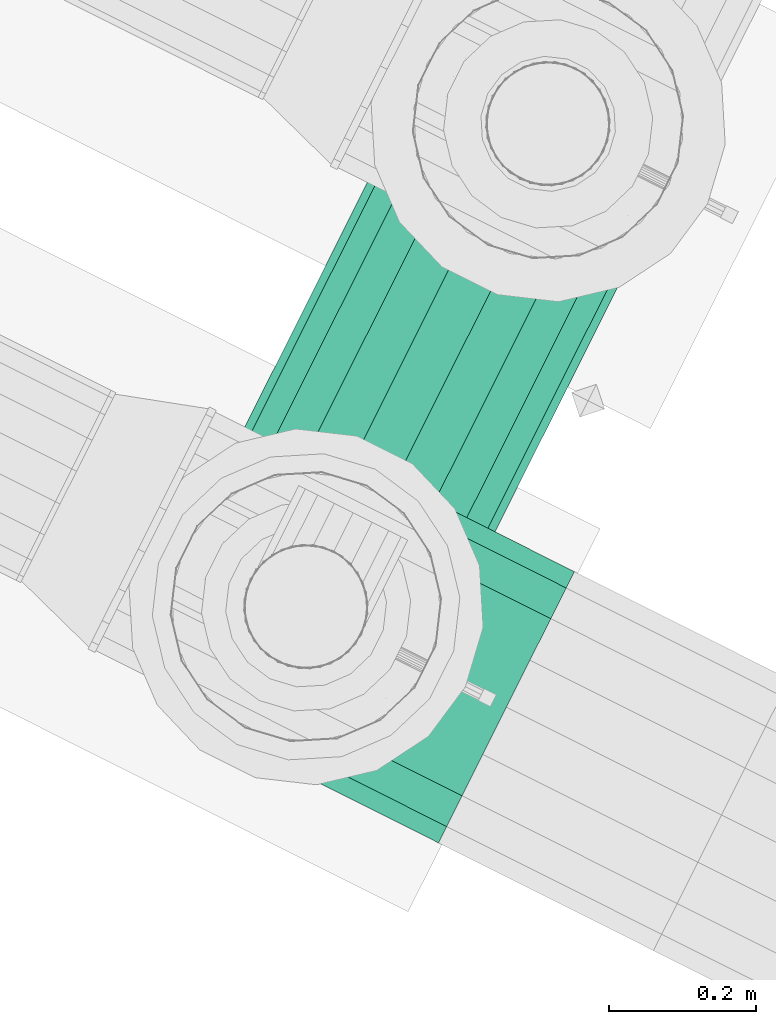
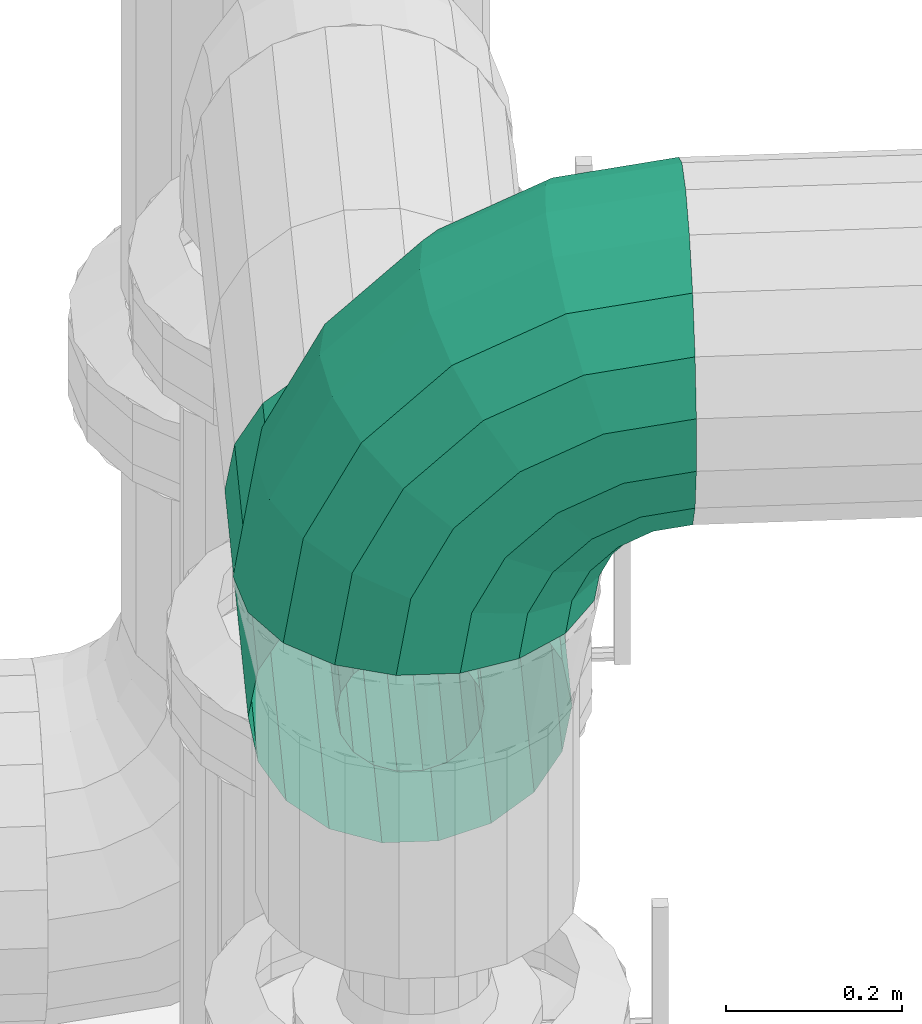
# One storey, part 21 of 152: 2 flow segments.
"""IFC2X3 building model written with IfcOpenShell, lengths in metres."""

from ifc_helpers import new_model, si_unit, derived_unit, direction, frame, origin, place, context, subcontext, project, spatial, face_set, surface_model, source, transform, mapped, material, type_object, type_shapes, element, save


model = new_model("IFC2X3")

# Units and contexts
model_context = context("Model", 3, precision=5.2338327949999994e-05, world=origin(), true_north=direction((0.0, 1.0)))
body_context = subcontext(model_context, "Body", "Model", "MODEL_VIEW")
ifc_project = project(units=[si_unit("LENGTHUNIT", "METRE"), si_unit("AREAUNIT", "SQUARE_METRE"), si_unit("VOLUMEUNIT", "CUBIC_METRE"), si_unit("MASSUNIT", "GRAM", prefix="KILO"), si_unit("PLANEANGLEUNIT", "RADIAN"), derived_unit("THERMALTRANSMITTANCEUNIT", [(si_unit("MASSUNIT", "GRAM", prefix="KILO"), 1), (si_unit("THERMODYNAMICTEMPERATUREUNIT", "KELVIN"), -1), (si_unit("TIMEUNIT", "SECOND"), -3)])], contexts=[model_context])

# Site, building, storey
site_placement = place(None, frame((0.0, 0.0, 0.0), z_axis=(0.0, 0.0, 1.0), x_axis=(0.8939966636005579, -0.4480736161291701, 0.0)))
site = spatial("IfcSite", under=ifc_project, at=site_placement, Name="Default", CompositionType="ELEMENT")
building_placement = place(site_placement, origin())
building = spatial("IfcBuilding", under=site, at=building_placement, CompositionType="ELEMENT")
storey_placement = place(building_placement, frame((0.0, 0.0, 2.7499999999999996)))
storey = spatial("IfcBuildingStorey", under=building, at=storey_placement, Name="1. Obergeschoss", CompositionType="ELEMENT", Elevation=2.7499999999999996)

# Flow segments
ifc_material = material(Name="IfcSurfaceStyle #9317")
distribution_element_type_1 = type_object("IfcDistributionElementType", Name="Rohrbogen 220556:Rohrbogen 220556", material=ifc_material)
shared_shape_1 = source(origin(), body_context, "Body", "SurfaceModel", [
    surface_model("IfcFaceBasedSurfaceModel", [(12.030668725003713, 5.856787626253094, 5.745190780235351), (12.030668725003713, 5.8942559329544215, 5.738584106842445), (11.904607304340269, 5.8942559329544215, 5.718617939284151), (11.902565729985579, 5.856787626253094, 5.724901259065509), (11.79088565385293, 5.8942559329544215, 5.66067386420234), (11.78700234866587, 5.8567876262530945, 5.666018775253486), (11.700635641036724, 5.8942559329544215, 5.570423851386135), (11.695290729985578, 5.856787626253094, 5.5743071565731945), (11.642691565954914, 5.894255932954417, 5.456702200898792), (11.63640824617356, 5.856787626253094, 5.458743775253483), (11.622725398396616, 5.894255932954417, 5.330640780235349), (11.61611872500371, 5.85678762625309, 5.33064078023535), (12.030668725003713, 5.927205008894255, 5.7195609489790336), (11.91048578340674, 5.927205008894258, 5.700525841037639), (11.802067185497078, 5.927205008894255, 5.645283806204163), (11.716025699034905, 5.927205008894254, 5.559242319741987), (11.660783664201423, 5.927205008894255, 5.450823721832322), (11.641748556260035, 5.927205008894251, 5.330640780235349), (12.030668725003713, 5.95166070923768, 5.690415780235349), (11.919492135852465, 5.9516607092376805, 5.672807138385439), (11.819198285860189, 5.95166070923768, 5.621704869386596), (11.739604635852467, 5.951660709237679, 5.5421112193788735), (11.688502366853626, 5.951660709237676, 5.441817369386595), (11.670893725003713, 5.951660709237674, 5.330640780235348), (12.030668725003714, 5.96467331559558, 5.6546639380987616), (11.930540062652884, 5.964673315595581, 5.6388051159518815), (11.840212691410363, 5.96467331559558, 5.5927810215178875), (11.768528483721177, 5.964673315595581, 5.521096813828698), (11.722504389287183, 5.9646733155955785, 5.430769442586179), (11.706645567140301, 5.9646733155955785, 5.330640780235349), (12.030668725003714, 5.964673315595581, 5.616617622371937), (11.942297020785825, 5.964673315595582, 5.602620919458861), (11.862575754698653, 5.964673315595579, 5.562000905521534), (11.79930859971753, 5.964673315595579, 5.49873375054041), (11.758688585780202, 5.9646733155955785, 5.419012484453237), (11.744691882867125, 5.964673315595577, 5.330640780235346), (12.030668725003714, 5.951660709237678, 5.580865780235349), (11.953344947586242, 5.951660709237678, 5.568618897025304), (11.883590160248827, 5.951660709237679, 5.533077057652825), (11.828232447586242, 5.95166070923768, 5.4777193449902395), (11.792690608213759, 5.951660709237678, 5.4079645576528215), (11.78044372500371, 5.951660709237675, 5.33064078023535), (12.030668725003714, 5.927205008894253, 5.551720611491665), (11.962351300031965, 5.927205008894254, 5.540900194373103), (11.90072126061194, 5.927205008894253, 5.509498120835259), (11.851811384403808, 5.927205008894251, 5.460588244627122), (11.820409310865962, 5.927205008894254, 5.398958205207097), (11.809588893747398, 5.927205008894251, 5.33064078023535), (12.030668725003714, 5.894255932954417, 5.532697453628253), (11.968229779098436, 5.89425593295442, 5.522808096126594), (11.911902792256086, 5.894255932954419, 5.494108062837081), (11.867201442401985, 5.89425593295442, 5.449406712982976), (11.838501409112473, 5.894255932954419, 5.393079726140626), (11.828612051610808, 5.894255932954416, 5.330640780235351), (12.030668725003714, 5.856787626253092, 5.526090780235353), (11.97027135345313, 5.856787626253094, 5.516524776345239), (11.915786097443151, 5.856787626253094, 5.488763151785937), (11.872546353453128, 5.856787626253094, 5.445523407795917), (11.844784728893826, 5.85678762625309, 5.391038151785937), (11.835218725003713, 5.856787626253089, 5.330640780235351), (12.030668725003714, 5.819319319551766, 5.532697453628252), (11.968229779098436, 5.819319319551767, 5.522808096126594), (11.91190279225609, 5.8193193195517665, 5.494108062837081), (11.867201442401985, 5.8193193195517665, 5.44940671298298), (11.838501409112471, 5.819319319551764, 5.393079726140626), (11.828612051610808, 5.819319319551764, 5.330640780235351), (12.030668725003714, 5.786370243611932, 5.5517206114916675), (11.962351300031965, 5.786370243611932, 5.540900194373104), (11.90072126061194, 5.786370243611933, 5.509498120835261), (11.851811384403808, 5.786370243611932, 5.460588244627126), (11.820409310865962, 5.786370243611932, 5.3989582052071), (11.809588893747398, 5.7863702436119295, 5.330640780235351), (12.030668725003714, 5.761914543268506, 5.58086578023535), (11.953344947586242, 5.761914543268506, 5.568618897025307), (11.883590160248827, 5.7619145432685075, 5.533077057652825), (11.828232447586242, 5.761914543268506, 5.47771934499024), (11.792690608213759, 5.7619145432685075, 5.407964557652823), (11.78044372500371, 5.761914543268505, 5.330640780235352), (12.030668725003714, 5.748901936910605, 5.616617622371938), (11.942297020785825, 5.748901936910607, 5.602620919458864), (11.862575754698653, 5.748901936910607, 5.562000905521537), (11.79930859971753, 5.748901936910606, 5.4987337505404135), (11.7586885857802, 5.748901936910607, 5.419012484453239), (11.744691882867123, 5.748901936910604, 5.33064078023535), (12.030668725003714, 5.748901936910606, 5.654663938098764), (11.930540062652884, 5.748901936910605, 5.638805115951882), (11.840212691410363, 5.748901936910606, 5.592781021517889), (11.768528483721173, 5.748901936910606, 5.521096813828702), (11.722504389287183, 5.748901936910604, 5.430769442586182), (11.706645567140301, 5.748901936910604, 5.330640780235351), (12.030668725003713, 5.761914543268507, 5.690415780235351), (11.919492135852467, 5.761914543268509, 5.672807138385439), (11.81919828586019, 5.761914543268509, 5.621704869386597), (11.739604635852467, 5.761914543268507, 5.542111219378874), (11.688502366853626, 5.761914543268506, 5.441817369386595), (11.670893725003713, 5.761914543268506, 5.330640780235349), (12.030668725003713, 5.786370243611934, 5.719560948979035), (11.91048578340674, 5.786370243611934, 5.70052584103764), (11.802067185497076, 5.786370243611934, 5.645283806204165), (11.716025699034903, 5.786370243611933, 5.5592423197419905), (11.660783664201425, 5.786370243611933, 5.450823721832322), (11.64174855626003, 5.7863702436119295, 5.330640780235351), (12.030668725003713, 5.819319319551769, 5.738584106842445), (11.904607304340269, 5.81931931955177, 5.718617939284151), (11.79088565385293, 5.81931931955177, 5.660673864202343), (11.700635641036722, 5.819319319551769, 5.570423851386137), (11.642691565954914, 5.819319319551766, 5.456702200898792), (11.622725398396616, 5.819319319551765, 5.330640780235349), (12.030668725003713, 5.856787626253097, 5.84519078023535), (12.030668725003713, 5.92845794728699, 5.832553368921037), (11.875569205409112, 5.92845794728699, 5.807988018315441), (11.871664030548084, 5.856787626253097, 5.820006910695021), (11.735651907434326, 5.92845794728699, 5.736696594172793), (11.72822382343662, 5.8567876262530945, 5.746920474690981), (11.624612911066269, 5.928457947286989, 5.625657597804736), (11.614389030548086, 5.856787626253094, 5.633085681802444), (11.55332148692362, 5.9284579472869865, 5.485740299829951), (11.541302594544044, 5.856787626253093, 5.489645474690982), (11.528756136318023, 5.928457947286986, 5.33064078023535), (11.516118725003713, 5.856787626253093, 5.33064078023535), (12.030668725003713, 5.991483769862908, 5.796165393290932), (11.886813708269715, 5.991483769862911, 5.7733809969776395), (11.757040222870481, 5.991483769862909, 5.707258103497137), (11.654051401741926, 5.991483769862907, 5.60426928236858), (11.587928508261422, 5.991483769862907, 5.474495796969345), (11.565144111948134, 5.991483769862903, 5.330640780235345), (12.030668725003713, 6.038263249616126, 5.740415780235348), (11.904041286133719, 6.038263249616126, 5.720359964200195), (11.789809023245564, 6.0382632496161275, 5.662155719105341), (11.699153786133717, 6.038263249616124, 5.571500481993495), (11.640949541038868, 6.038263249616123, 5.457268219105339), (11.620893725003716, 6.03826324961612, 5.330640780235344), (12.030668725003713, 6.063154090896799, 5.672028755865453), (11.92517403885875, 6.063154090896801, 5.655320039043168), (11.830005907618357, 6.063154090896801, 5.606829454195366), (11.754480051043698, 6.063154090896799, 5.531303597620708), (11.705989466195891, 6.0631540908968, 5.4361354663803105), (11.68928074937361, 6.063154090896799, 5.330640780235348), (12.030668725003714, 6.0631540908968, 5.599252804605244), (11.94766304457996, 6.0631540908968, 5.586105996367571), (11.872782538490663, 6.0631540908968, 5.5479524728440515), (11.813357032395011, 6.0631540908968, 5.4885269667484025), (11.775203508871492, 6.063154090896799, 5.413646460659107), (11.762056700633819, 6.0631540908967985, 5.330640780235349), (12.030668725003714, 6.038263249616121, 5.53086578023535), (11.96879579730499, 6.038263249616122, 5.521066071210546), (11.912979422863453, 6.038263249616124, 5.492626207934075), (11.868683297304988, 6.038263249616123, 5.448330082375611), (11.840243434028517, 6.038263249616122, 5.392513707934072), (11.830443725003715, 6.038263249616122, 5.330640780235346), (12.030668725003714, 5.9914837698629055, 5.475116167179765), (11.98602337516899, 5.9914837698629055, 5.4680450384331), (11.945748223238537, 5.991483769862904, 5.447523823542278), (11.913785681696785, 5.9914837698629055, 5.415561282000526), (11.893264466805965, 5.991483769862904, 5.375286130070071), (11.886193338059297, 5.9914837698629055, 5.330640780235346), (12.030668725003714, 5.928457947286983, 5.438728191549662), (11.997267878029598, 5.9284579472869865, 5.433438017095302), (11.96713653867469, 5.9284579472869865, 5.418085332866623), (11.94322417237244, 5.928457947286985, 5.3941729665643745), (11.927871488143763, 5.928457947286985, 5.3640416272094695), (11.922581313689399, 5.928457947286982, 5.330640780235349), (12.030668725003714, 5.856787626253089, 5.426090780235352), (12.001173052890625, 5.856787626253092, 5.421419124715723), (11.974564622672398, 5.856787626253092, 5.407861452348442), (11.953448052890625, 5.85678762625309, 5.386744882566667), (11.939890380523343, 5.856787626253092, 5.36013645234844), (11.935218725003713, 5.856787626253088, 5.330640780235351), (12.030668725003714, 5.785117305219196, 5.438728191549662), (11.997267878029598, 5.785117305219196, 5.433438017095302), (11.96713653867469, 5.785117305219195, 5.4180853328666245), (11.94322417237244, 5.785117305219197, 5.3941729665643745), (11.927871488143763, 5.785117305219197, 5.3640416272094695), (11.922581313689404, 5.785117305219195, 5.330640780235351), (12.030668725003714, 5.722091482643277, 5.47511616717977), (11.98602337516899, 5.722091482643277, 5.468045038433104), (11.945748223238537, 5.722091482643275, 5.447523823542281), (11.913785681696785, 5.722091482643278, 5.415561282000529), (11.893264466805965, 5.722091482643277, 5.375286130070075), (11.886193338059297, 5.722091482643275, 5.330640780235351), (12.030668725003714, 5.675312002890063, 5.530865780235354), (11.968795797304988, 5.675312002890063, 5.5210660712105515), (11.912979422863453, 5.675312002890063, 5.49262620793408), (11.868683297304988, 5.675312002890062, 5.448330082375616), (11.840243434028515, 5.675312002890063, 5.392513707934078), (11.830443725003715, 5.6753120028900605, 5.330640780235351), (12.030668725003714, 5.650421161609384, 5.599252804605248), (11.94766304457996, 5.650421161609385, 5.586105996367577), (11.872782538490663, 5.650421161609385, 5.547952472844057), (11.813357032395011, 5.650421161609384, 5.488526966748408), (11.775203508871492, 5.6504211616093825, 5.413646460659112), (11.762056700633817, 5.650421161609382, 5.330640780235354), (12.030668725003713, 5.650421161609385, 5.672028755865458), (11.92517403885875, 5.650421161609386, 5.655320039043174), (11.830005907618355, 5.650421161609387, 5.6068294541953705), (11.754480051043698, 5.650421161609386, 5.531303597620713), (11.705989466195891, 5.650421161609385, 5.436135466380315), (11.689280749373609, 5.650421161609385, 5.330640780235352), (12.030668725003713, 5.675312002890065, 5.740415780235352), (11.904041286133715, 5.675312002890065, 5.7203599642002), (11.789809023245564, 5.675312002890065, 5.662155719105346), (11.699153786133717, 5.675312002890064, 5.571500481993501), (11.640949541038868, 5.675312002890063, 5.457268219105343), (11.620893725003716, 5.6753120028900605, 5.330640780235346), (12.030668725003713, 5.72209148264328, 5.796165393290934), (11.886813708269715, 5.722091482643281, 5.773380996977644), (11.757040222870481, 5.722091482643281, 5.707258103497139), (11.654051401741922, 5.722091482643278, 5.604269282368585), (11.587928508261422, 5.722091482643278, 5.474495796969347), (11.565144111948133, 5.722091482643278, 5.330640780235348), (12.030668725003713, 5.785117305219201, 5.832553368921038), (11.875569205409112, 5.7851173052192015, 5.807988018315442), (11.735651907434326, 5.785117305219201, 5.736696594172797), (11.624612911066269, 5.785117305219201, 5.625657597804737), (11.553321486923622, 5.785117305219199, 5.485740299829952), (11.528756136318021, 5.785117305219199, 5.330640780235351)], [face_set([[[0, 1, 2, 3]], [[3, 2, 4, 5]], [[5, 4, 6, 7]], [[7, 6, 8, 9]], [[9, 8, 10, 11]], [[1, 12, 13, 2]], [[2, 13, 14, 4]], [[4, 14, 15, 6]], [[6, 15, 16, 8]], [[8, 16, 17, 10]], [[12, 18, 19, 13]], [[13, 19, 20, 14]], [[14, 20, 21, 15]], [[15, 21, 22, 16]], [[16, 22, 23, 17]], [[18, 24, 25, 19]], [[19, 25, 26, 20]], [[20, 26, 27, 21]], [[21, 27, 28, 22]], [[22, 28, 29, 23]], [[24, 30, 31, 25]], [[25, 31, 32, 26]], [[26, 32, 33, 27]], [[27, 33, 34, 28]], [[28, 34, 35, 29]], [[30, 36, 37, 31]], [[31, 37, 38, 32]], [[32, 38, 39, 33]], [[33, 39, 40, 34]], [[34, 40, 41, 35]], [[36, 42, 43, 37]], [[37, 43, 44, 38]], [[38, 44, 45, 39]], [[39, 45, 46, 40]], [[40, 46, 47, 41]], [[42, 48, 49, 43]], [[43, 49, 50, 44]], [[44, 50, 51, 45]], [[45, 51, 52, 46]], [[46, 52, 53, 47]], [[48, 54, 55, 49]], [[49, 55, 56, 50]], [[50, 56, 57, 51]], [[51, 57, 58, 52]], [[52, 58, 59, 53]], [[54, 60, 61, 55]], [[55, 61, 62, 56]], [[56, 62, 63, 57]], [[57, 63, 64, 58]], [[58, 64, 65, 59]], [[60, 66, 67, 61]], [[61, 67, 68, 62]], [[62, 68, 69, 63]], [[63, 69, 70, 64]], [[64, 70, 71, 65]], [[66, 72, 73, 67]], [[67, 73, 74, 68]], [[68, 74, 75, 69]], [[69, 75, 76, 70]], [[70, 76, 77, 71]], [[72, 78, 79, 73]], [[73, 79, 80, 74]], [[74, 80, 81, 75]], [[75, 81, 82, 76]], [[76, 82, 83, 77]], [[78, 84, 85, 79]], [[79, 85, 86, 80]], [[80, 86, 87, 81]], [[81, 87, 88, 82]], [[82, 88, 89, 83]], [[84, 90, 91, 85]], [[85, 91, 92, 86]], [[86, 92, 93, 87]], [[87, 93, 94, 88]], [[88, 94, 95, 89]], [[90, 96, 97, 91]], [[91, 97, 98, 92]], [[92, 98, 99, 93]], [[93, 99, 100, 94]], [[94, 100, 101, 95]], [[96, 102, 103, 97]], [[97, 103, 104, 98]], [[98, 104, 105, 99]], [[99, 105, 106, 100]], [[100, 106, 107, 101]], [[102, 0, 3, 103]], [[103, 3, 5, 104]], [[104, 5, 7, 105]], [[105, 7, 9, 106]], [[106, 9, 11, 107]], [[108, 109, 110, 111]], [[111, 110, 112, 113]], [[113, 112, 114, 115]], [[115, 114, 116, 117]], [[117, 116, 118, 119]], [[109, 120, 121, 110]], [[110, 121, 122, 112]], [[112, 122, 123, 114]], [[114, 123, 124, 116]], [[116, 124, 125, 118]], [[120, 126, 127, 121]], [[121, 127, 128, 122]], [[122, 128, 129, 123]], [[123, 129, 130, 124]], [[124, 130, 131, 125]], [[126, 132, 133, 127]], [[127, 133, 134, 128]], [[128, 134, 135, 129]], [[129, 135, 136, 130]], [[130, 136, 137, 131]], [[132, 138, 139, 133]], [[133, 139, 140, 134]], [[134, 140, 141, 135]], [[135, 141, 142, 136]], [[136, 142, 143, 137]], [[138, 144, 145, 139]], [[139, 145, 146, 140]], [[140, 146, 147, 141]], [[141, 147, 148, 142]], [[142, 148, 149, 143]], [[144, 150, 151, 145]], [[145, 151, 152, 146]], [[146, 152, 153, 147]], [[147, 153, 154, 148]], [[148, 154, 155, 149]], [[150, 156, 157, 151]], [[151, 157, 158, 152]], [[152, 158, 159, 153]], [[153, 159, 160, 154]], [[154, 160, 161, 155]], [[156, 162, 163, 157]], [[157, 163, 164, 158]], [[158, 164, 165, 159]], [[159, 165, 166, 160]], [[160, 166, 167, 161]], [[162, 168, 169, 163]], [[163, 169, 170, 164]], [[164, 170, 171, 165]], [[165, 171, 172, 166]], [[166, 172, 173, 167]], [[168, 174, 175, 169]], [[169, 175, 176, 170]], [[170, 176, 177, 171]], [[171, 177, 178, 172]], [[172, 178, 179, 173]], [[174, 180, 181, 175]], [[175, 181, 182, 176]], [[176, 182, 183, 177]], [[177, 183, 184, 178]], [[178, 184, 185, 179]], [[180, 186, 187, 181]], [[181, 187, 188, 182]], [[182, 188, 189, 183]], [[183, 189, 190, 184]], [[184, 190, 191, 185]], [[186, 192, 193, 187]], [[187, 193, 194, 188]], [[188, 194, 195, 189]], [[189, 195, 196, 190]], [[190, 196, 197, 191]], [[192, 198, 199, 193]], [[193, 199, 200, 194]], [[194, 200, 201, 195]], [[195, 201, 202, 196]], [[196, 202, 203, 197]], [[198, 204, 205, 199]], [[199, 205, 206, 200]], [[200, 206, 207, 201]], [[201, 207, 208, 202]], [[202, 208, 209, 203]], [[204, 210, 211, 205]], [[205, 211, 212, 206]], [[206, 212, 213, 207]], [[207, 213, 214, 208]], [[208, 214, 215, 209]], [[210, 108, 111, 211]], [[211, 111, 113, 212]], [[212, 113, 115, 213]], [[213, 115, 117, 214]], [[214, 117, 119, 215]]])]),
])
type_shapes(distribution_element_type_1, [shared_shape_1])
flow_segment_1_placement = place(storey_placement, frame((0.0, 0.0, -2.7499999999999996)))
element("IfcFlowSegment", 1, at=flow_segment_1_placement, inside=storey, type_object=distribution_element_type_1, material=ifc_material, Name="Rohrbogen", ObjectType="Rohrbogen", context=body_context, shape_type="MappedRepresentation", body=[
    mapped(shared_shape_1, transform((0.0, 0.0, 0.0), scale=1.0)),
])
distribution_element_type_2 = type_object("IfcDistributionElementType", Name="Stahlrohr nach DIN 2448 220871:Stahlrohr nach DIN 2448 220871", material=ifc_material)
shared_shape_2 = source(origin(), body_context, "Body", "SurfaceModel", [
    surface_model("IfcFaceBasedSurfaceModel", [(11.809964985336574, 5.99978762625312, 5.035640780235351), (11.80489011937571, 5.99978762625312, 5.006859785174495), (11.80489011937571, 6.448787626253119, 5.006859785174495), (11.809964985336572, 6.448787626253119, 5.035640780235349), (11.790277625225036, 5.99978762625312, 4.981550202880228), (11.790277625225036, 6.448787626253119, 4.981550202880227), (11.767889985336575, 5.99978762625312, 4.96276474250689), (11.767889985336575, 6.448787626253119, 4.962764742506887), (11.740427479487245, 5.99978762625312, 4.952769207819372), (11.740427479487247, 6.448787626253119, 4.952769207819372), (11.711202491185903, 5.99978762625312, 4.952769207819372), (11.711202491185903, 6.448787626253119, 4.952769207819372), (11.683739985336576, 5.99978762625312, 4.962764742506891), (11.683739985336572, 6.448787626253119, 4.962764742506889), (11.661352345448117, 5.99978762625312, 4.981550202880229), (11.661352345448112, 6.448787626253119, 4.981550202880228), (11.646739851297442, 5.99978762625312, 5.0068597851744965), (11.646739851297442, 6.448787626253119, 5.006859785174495), (11.641664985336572, 5.999787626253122, 5.035640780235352), (11.641664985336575, 6.448787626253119, 5.03564078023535), (11.646739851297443, 5.99978762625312, 5.064421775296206), (11.646739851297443, 6.448787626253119, 5.064421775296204), (11.661352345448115, 5.99978762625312, 5.089731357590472), (11.661352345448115, 6.448787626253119, 5.0897313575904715), (11.683739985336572, 5.99978762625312, 5.108516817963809), (11.683739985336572, 6.448787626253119, 5.108516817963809), (11.711202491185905, 5.99978762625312, 5.118512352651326), (11.711202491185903, 6.448787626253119, 5.118512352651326), (11.740427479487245, 5.99978762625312, 5.118512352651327), (11.740427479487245, 6.448787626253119, 5.118512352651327), (11.767889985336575, 5.99978762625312, 5.108516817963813), (11.767889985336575, 6.448787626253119, 5.10851681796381), (11.790277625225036, 5.99978762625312, 5.089731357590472), (11.790277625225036, 6.448787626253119, 5.0897313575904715), (11.804890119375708, 5.99978762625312, 5.064421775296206), (11.804890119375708, 6.448787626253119, 5.064421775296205), (11.909964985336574, 5.99978762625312, 5.035640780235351), (11.8988593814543, 5.99978762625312, 4.9726577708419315), (11.898859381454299, 6.448787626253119, 4.972657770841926), (11.909964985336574, 6.448787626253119, 5.035640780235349), (11.866882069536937, 5.99978762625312, 4.917271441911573), (11.866882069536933, 6.448787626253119, 4.917271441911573), (11.817889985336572, 5.99978762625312, 4.876162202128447), (11.817889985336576, 6.448787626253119, 4.876162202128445), (11.75779229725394, 5.99978762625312, 4.854288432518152), (11.75779229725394, 6.448787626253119, 4.854288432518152), (11.693837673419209, 5.99978762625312, 4.8542884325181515), (11.693837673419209, 6.448787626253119, 4.8542884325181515), (11.633739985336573, 5.99978762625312, 4.876162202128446), (11.633739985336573, 6.448787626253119, 4.876162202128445), (11.584747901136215, 5.99978762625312, 4.917271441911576), (11.584747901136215, 6.448787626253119, 4.917271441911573), (11.552770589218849, 5.99978762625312, 4.972657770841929), (11.552770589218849, 6.448787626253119, 4.972657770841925), (11.541664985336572, 5.99978762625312, 5.035640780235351), (11.541664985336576, 6.448787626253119, 5.035640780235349), (11.552770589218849, 5.99978762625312, 5.098623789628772), (11.552770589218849, 6.448787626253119, 5.098623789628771), (11.584747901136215, 5.99978762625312, 5.154010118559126), (11.584747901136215, 6.448787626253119, 5.154010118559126), (11.633739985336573, 5.99978762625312, 5.1951193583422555), (11.633739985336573, 6.448787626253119, 5.195119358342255), (11.69383767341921, 5.99978762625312, 5.216993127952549), (11.693837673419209, 6.448787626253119, 5.216993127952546), (11.75779229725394, 5.99978762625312, 5.2169931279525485), (11.75779229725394, 6.448787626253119, 5.216993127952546), (11.817889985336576, 5.99978762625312, 5.195119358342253), (11.817889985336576, 6.448787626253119, 5.195119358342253), (11.866882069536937, 5.99978762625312, 5.1540101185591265), (11.866882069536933, 6.448787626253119, 5.154010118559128), (11.898859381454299, 5.99978762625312, 5.098623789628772), (11.898859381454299, 6.448787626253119, 5.098623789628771)], [face_set([[[0, 1, 2, 3]], [[1, 4, 5, 2]], [[4, 6, 7, 5]], [[6, 8, 9, 7]], [[8, 10, 11, 9]], [[10, 12, 13, 11]], [[12, 14, 15, 13]], [[14, 16, 17, 15]], [[16, 18, 19, 17]], [[18, 20, 21, 19]], [[20, 22, 23, 21]], [[22, 24, 25, 23]], [[24, 26, 27, 25]], [[26, 28, 29, 27]], [[28, 30, 31, 29]], [[30, 32, 33, 31]], [[32, 34, 35, 33]], [[34, 0, 3, 35]], [[36, 37, 38, 39]], [[37, 40, 41, 38]], [[40, 42, 43, 41]], [[42, 44, 45, 43]], [[44, 46, 47, 45]], [[46, 48, 49, 47]], [[48, 50, 51, 49]], [[50, 52, 53, 51]], [[52, 54, 55, 53]], [[54, 56, 57, 55]], [[56, 58, 59, 57]], [[58, 60, 61, 59]], [[60, 62, 63, 61]], [[62, 64, 65, 63]], [[64, 66, 67, 65]], [[66, 68, 69, 67]], [[68, 70, 71, 69]], [[70, 36, 39, 71]]])]),
])
type_shapes(distribution_element_type_2, [shared_shape_2])
flow_segment_2_placement = place(storey_placement, frame((0.0, 0.0, -2.7499999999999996)))
element("IfcFlowSegment", 2, at=flow_segment_2_placement, inside=storey, type_object=distribution_element_type_2, material=ifc_material, Name="Stahlrohr nach DIN 2448", ObjectType="Stahlrohr nach DIN 2448", context=body_context, shape_type="MappedRepresentation", body=[
    mapped(shared_shape_2, transform((0.0, 0.0, 0.0), scale=1.0)),
])

save(model, "model.ifc")
